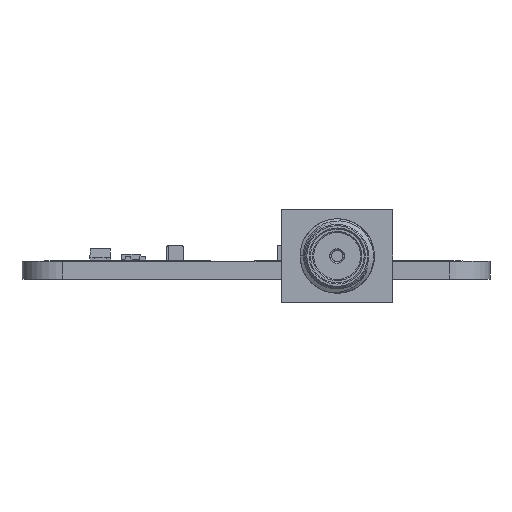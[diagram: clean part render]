
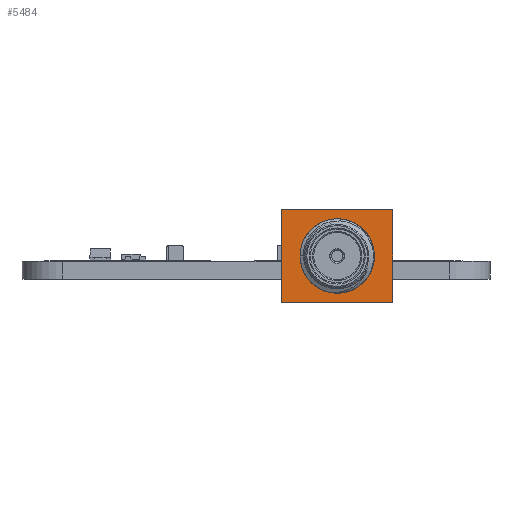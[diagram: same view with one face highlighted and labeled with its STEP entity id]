
A CAD part, left-side view. The second image highlights one B-rep face of the part: STEP entity #5484.
In plain terms, the highlighted planar face has unit normal (-1, 0, 0) as drawn and (1, 0, 0) by its records, which use the part's own axes.
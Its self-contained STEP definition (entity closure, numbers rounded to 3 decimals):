
#5260 = VERTEX_POINT('',#5261);
#5261 = CARTESIAN_POINT('',(4.19,-4.76,-3.58));
#5267 = EDGE_CURVE('',#5268,#5260,#5270,.T.);
#5268 = VERTEX_POINT('',#5269);
#5269 = CARTESIAN_POINT('',(4.19,-4.76,4.34));
#5270 = LINE('',#5271,#5272);
#5271 = CARTESIAN_POINT('',(4.19,-4.76,4.34));
#5272 = VECTOR('',#5273,1.);
#5273 = DIRECTION('',(0.,0.,-1.));
#5408 = EDGE_CURVE('',#5260,#5409,#5411,.T.);
#5409 = VERTEX_POINT('',#5410);
#5410 = CARTESIAN_POINT('',(4.19,4.76,-3.58));
#5411 = LINE('',#5412,#5413);
#5412 = CARTESIAN_POINT('',(4.19,-4.76,-3.58));
#5413 = VECTOR('',#5414,1.);
#5414 = DIRECTION('',(0.,1.,0.));
#5484 = ADVANCED_FACE('',(#5485,#5503),#5514,.T.);
#5485 = FACE_BOUND('',#5486,.T.);
#5486 = EDGE_LOOP('',(#5487,#5495,#5496,#5497));
#5487 = ORIENTED_EDGE('',*,*,#5488,.T.);
#5488 = EDGE_CURVE('',#5489,#5268,#5491,.T.);
#5489 = VERTEX_POINT('',#5490);
#5490 = CARTESIAN_POINT('',(4.19,4.76,4.34));
#5491 = LINE('',#5492,#5493);
#5492 = CARTESIAN_POINT('',(4.19,4.76,4.34));
#5493 = VECTOR('',#5494,1.);
#5494 = DIRECTION('',(0.,-1.,0.));
#5495 = ORIENTED_EDGE('',*,*,#5267,.T.);
#5496 = ORIENTED_EDGE('',*,*,#5408,.T.);
#5497 = ORIENTED_EDGE('',*,*,#5498,.T.);
#5498 = EDGE_CURVE('',#5409,#5489,#5499,.T.);
#5499 = LINE('',#5500,#5501);
#5500 = CARTESIAN_POINT('',(4.19,4.76,-3.58));
#5501 = VECTOR('',#5502,1.);
#5502 = DIRECTION('',(0.,0.,1.));
#5503 = FACE_BOUND('',#5504,.T.);
#5504 = EDGE_LOOP('',(#5505));
#5505 = ORIENTED_EDGE('',*,*,#5506,.T.);
#5506 = EDGE_CURVE('',#5507,#5507,#5509,.T.);
#5507 = VERTEX_POINT('',#5508);
#5508 = CARTESIAN_POINT('',(4.19,-2.692,0.38));
#5509 = CIRCLE('',#5510,2.692);
#5510 = AXIS2_PLACEMENT_3D('',#5511,#5512,#5513);
#5511 = CARTESIAN_POINT('',(4.19,0.,0.38));
#5512 = DIRECTION('',(-1.,0.,0.));
#5513 = DIRECTION('',(0.,-1.,0.));
#5514 = PLANE('',#5515);
#5515 = AXIS2_PLACEMENT_3D('',#5516,#5517,#5518);
#5516 = CARTESIAN_POINT('',(4.19,0.,0.38));
#5517 = DIRECTION('',(1.,0.,0.));
#5518 = DIRECTION('',(0.,-0.,1.));
